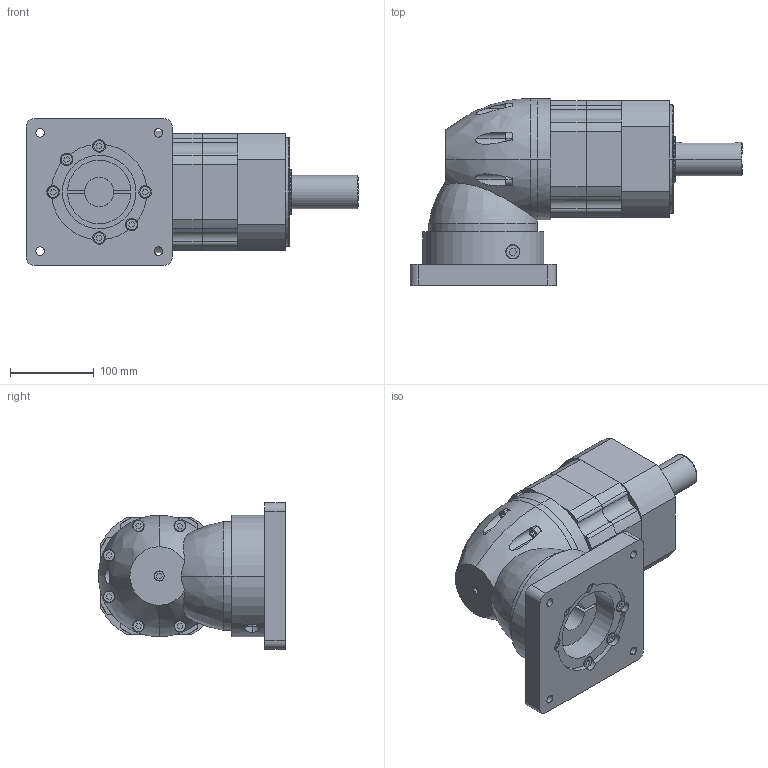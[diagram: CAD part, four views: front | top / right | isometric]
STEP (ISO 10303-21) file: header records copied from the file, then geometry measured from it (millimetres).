
FILE_DESCRIPTION (( 'STEP AP214' ), '1' );
FILE_NAME ('PER-160-L2-S2-P2 35-79 114.3-200-M12.STEP', '2023-09-09T00:49:57', ( '微软用户' ), ( '微软中国' ), 'SwSTEP 2.0', 'SolidWorks 2018', '' );
FILE_SCHEMA (( 'AUTOMOTIVE_DESIGN' ));
Length unit declared in the file: millimetre
Products named in the file (1): PER-160-L2-S2-P2 35-79 114.3-200-M12
Bounding box: 397 x 223.5 x 175 mm (x, y, z)
Volume: 5730158.9 mm3; surface area: 371149.1 mm2
Topology: 3 solids, 3 shells, 430 faces, 1063 edges, 681 vertices
Faces by surface type: plane 212, cylinder 185, cone 20, bspline 13
Entity records: 17006 total; most frequent: CARTESIAN_POINT 7034, ORIENTED_EDGE 2090, DIRECTION 1962, EDGE_CURVE 1045, AXIS2_PLACEMENT_3D 697, VERTEX_POINT 681, LINE 568, VECTOR 568
